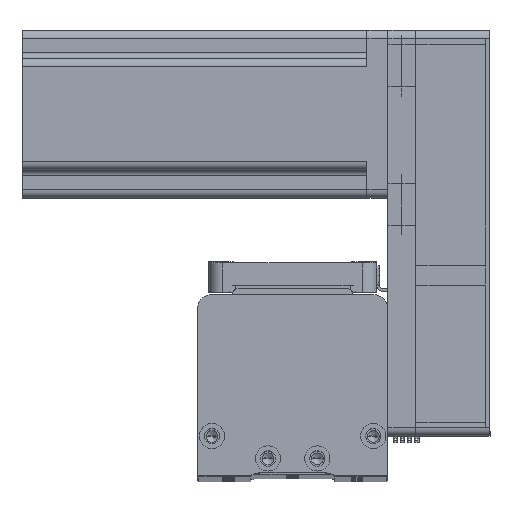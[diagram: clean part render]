
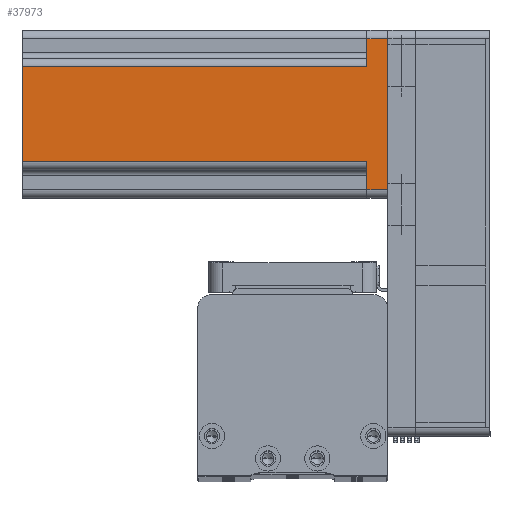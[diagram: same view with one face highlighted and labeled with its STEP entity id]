
A CAD part, top view. The second image highlights one B-rep face of the part: STEP entity #37973.
In plain terms, the highlighted planar face has unit normal (0, 0, 1) as drawn and (0, -1, 0) by its records, which use the part's own axes.
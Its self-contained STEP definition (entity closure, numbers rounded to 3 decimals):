
#617 = LINE ( 'NONE', #18514, #39417 ) ;
#1469 = ORIENTED_EDGE ( 'NONE', *, *, #25771, .T. ) ;
#1536 = VERTEX_POINT ( 'NONE', #47654 ) ;
#1692 = CARTESIAN_POINT ( 'NONE',  ( 30., -30., 130.7 ) ) ;
#2286 = LINE ( 'NONE', #12208, #32232 ) ;
#3242 = CARTESIAN_POINT ( 'NONE',  ( 30., -30., 0. ) ) ;
#3452 = DIRECTION ( 'NONE',  ( 1., 0., 0. ) ) ;
#5491 = DIRECTION ( 'NONE',  ( -1., 0., 0. ) ) ;
#6933 = EDGE_CURVE ( 'NONE', #37861, #20895, #29800, .T. ) ;
#7878 = CARTESIAN_POINT ( 'NONE',  ( 27., -30., 7.5 ) ) ;
#8915 = EDGE_LOOP ( 'NONE', ( #17136, #29386, #20426, #25321, #48040, #1469, #39838, #13230 ) ) ;
#12167 = DIRECTION ( 'NONE',  ( 1., 0., 0. ) ) ;
#12208 = CARTESIAN_POINT ( 'NONE',  ( 17., -30., 130.7 ) ) ;
#13230 = ORIENTED_EDGE ( 'NONE', *, *, #26587, .T. ) ;
#13579 = VECTOR ( 'NONE', #31951, 1000. ) ;
#16406 = VERTEX_POINT ( 'NONE', #30229 ) ;
#16604 = VERTEX_POINT ( 'NONE', #39104 ) ;
#17136 = ORIENTED_EDGE ( 'NONE', *, *, #36488, .F. ) ;
#17876 = VECTOR ( 'NONE', #27145, 1000. ) ;
#18514 = CARTESIAN_POINT ( 'NONE',  ( 27., -30., 130.7 ) ) ;
#20270 = PLANE ( 'NONE',  #43196 ) ;
#20426 = ORIENTED_EDGE ( 'NONE', *, *, #40008, .F. ) ;
#20895 = VERTEX_POINT ( 'NONE', #41900 ) ;
#22373 = CARTESIAN_POINT ( 'NONE',  ( -17., -30., 130.7 ) ) ;
#25321 = ORIENTED_EDGE ( 'NONE', *, *, #44156, .T. ) ;
#25629 = LINE ( 'NONE', #34650, #45624 ) ;
#25687 = DIRECTION ( 'NONE',  ( 1., 0., 0. ) ) ;
#25771 = EDGE_CURVE ( 'NONE', #20895, #32381, #617, .T. ) ;
#26477 = CARTESIAN_POINT ( 'NONE',  ( 17., -30., 7.5 ) ) ;
#26587 = EDGE_CURVE ( 'NONE', #35900, #1536, #2286, .T. ) ;
#26916 = LINE ( 'NONE', #48432, #45734 ) ;
#27145 = DIRECTION ( 'NONE',  ( 0., 0., -1. ) ) ;
#27276 = CARTESIAN_POINT ( 'NONE',  ( -27., -30., 0. ) ) ;
#27440 = EDGE_CURVE ( 'NONE', #32381, #35900, #46178, .T. ) ;
#27831 = LINE ( 'NONE', #45866, #17876 ) ;
#27923 = DIRECTION ( 'NONE',  ( 0., 1., 0. ) ) ;
#28601 = VECTOR ( 'NONE', #25687, 1000. ) ;
#29386 = ORIENTED_EDGE ( 'NONE', *, *, #40853, .T. ) ;
#29800 = LINE ( 'NONE', #3242, #28601 ) ;
#30229 = CARTESIAN_POINT ( 'NONE',  ( -17., -30., 7.5 ) ) ;
#31951 = DIRECTION ( 'NONE',  ( 0., 0., -1. ) ) ;
#32232 = VECTOR ( 'NONE', #45998, 1000. ) ;
#32381 = VERTEX_POINT ( 'NONE', #7878 ) ;
#32775 = CARTESIAN_POINT ( 'NONE',  ( 20., -30., 7.5 ) ) ;
#34242 = FACE_OUTER_BOUND ( 'NONE', #8915, .T. ) ;
#34650 = CARTESIAN_POINT ( 'NONE',  ( 30., -30., 130.7 ) ) ;
#35900 = VERTEX_POINT ( 'NONE', #26477 ) ;
#36488 = EDGE_CURVE ( 'NONE', #39503, #1536, #25629, .T. ) ;
#36593 = DIRECTION ( 'NONE',  ( -1., 0., 0. ) ) ;
#37861 = VERTEX_POINT ( 'NONE', #27276 ) ;
#37973 = ADVANCED_FACE ( 'NONE', ( #34242 ), #20270, .F. ) ;
#39104 = CARTESIAN_POINT ( 'NONE',  ( -27., -30., 7.5 ) ) ;
#39370 = CARTESIAN_POINT ( 'NONE',  ( -17., -30., 130.7 ) ) ;
#39417 = VECTOR ( 'NONE', #40995, 1000. ) ;
#39503 = VERTEX_POINT ( 'NONE', #22373 ) ;
#39838 = ORIENTED_EDGE ( 'NONE', *, *, #27440, .T. ) ;
#40008 = EDGE_CURVE ( 'NONE', #16604, #16406, #26916, .T. ) ;
#40853 = EDGE_CURVE ( 'NONE', #39503, #16406, #43508, .T. ) ;
#40995 = DIRECTION ( 'NONE',  ( 0., 0., 1. ) ) ;
#41900 = CARTESIAN_POINT ( 'NONE',  ( 27., -30., 0. ) ) ;
#43196 = AXIS2_PLACEMENT_3D ( 'NONE', #1692, #27923, #5491 ) ;
#43508 = LINE ( 'NONE', #39370, #13579 ) ;
#44156 = EDGE_CURVE ( 'NONE', #16604, #37861, #27831, .T. ) ;
#45011 = VECTOR ( 'NONE', #36593, 1000. ) ;
#45624 = VECTOR ( 'NONE', #12167, 1000. ) ;
#45734 = VECTOR ( 'NONE', #3452, 1000. ) ;
#45866 = CARTESIAN_POINT ( 'NONE',  ( -27., -30., 130.7 ) ) ;
#45998 = DIRECTION ( 'NONE',  ( 0., 0., 1. ) ) ;
#46178 = LINE ( 'NONE', #32775, #45011 ) ;
#47654 = CARTESIAN_POINT ( 'NONE',  ( 17., -30., 130.7 ) ) ;
#48040 = ORIENTED_EDGE ( 'NONE', *, *, #6933, .T. ) ;
#48432 = CARTESIAN_POINT ( 'NONE',  ( -20., -30., 7.5 ) ) ;
